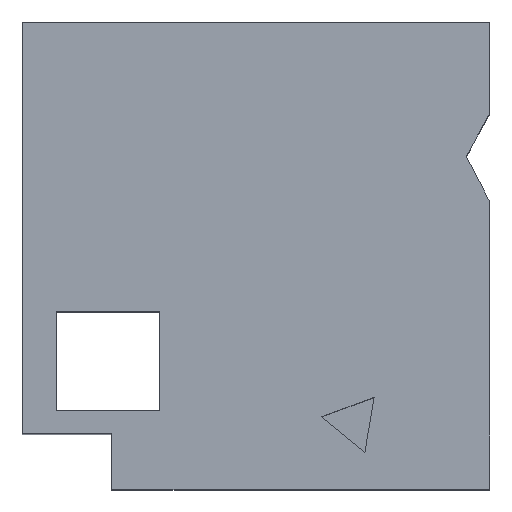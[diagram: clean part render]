
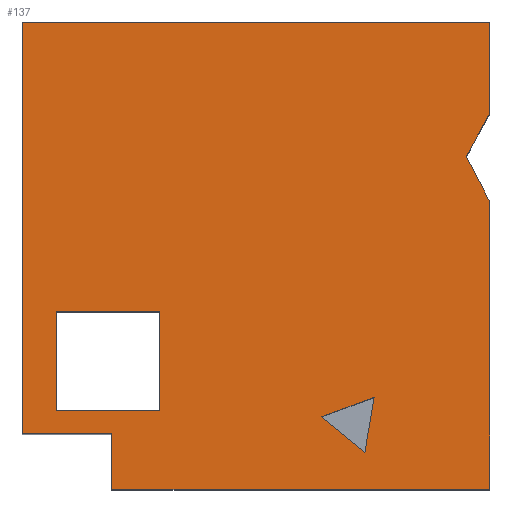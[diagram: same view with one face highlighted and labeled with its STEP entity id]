
A CAD part, top view. The second image highlights one B-rep face of the part: STEP entity #137.
In plain terms, the highlighted planar face has unit normal (0, 0, 1).
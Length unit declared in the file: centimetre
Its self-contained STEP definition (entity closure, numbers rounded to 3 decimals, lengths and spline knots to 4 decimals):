
#8 = ORIENTED_EDGE ( 'NONE', *, *, #342, .T. ) ;
#51 = VERTEX_POINT ( 'NONE', #585 ) ;
#54 = DIRECTION ( 'NONE',  ( 0., -1., 0. ) ) ;
#58 = VERTEX_POINT ( 'NONE', #244 ) ;
#74 = EDGE_LOOP ( 'NONE', ( #293, #268, #86, #396, #1429, #719, #988, #981, #1004 ) ) ;
#86 = ORIENTED_EDGE ( 'NONE', *, *, #575, .T. ) ;
#105 = CARTESIAN_POINT ( 'NONE',  ( 1000., 1000., 1000. ) ) ;
#108 = VERTEX_POINT ( 'NONE', #858 ) ;
#113 = EDGE_LOOP ( 'NONE', ( #671, #318, #610 ) ) ;
#119 = VECTOR ( 'NONE', #229, 100. ) ;
#134 = DIRECTION ( 'NONE',  ( 0., 1., 0. ) ) ;
#137 = ADVANCED_FACE ( 'NONE', ( #1286, #1391, #637 ), #549, .T. ) ;
#140 = CARTESIAN_POINT ( 'NONE',  ( 0., 1000., 1000. ) ) ;
#186 = CARTESIAN_POINT ( 'NONE',  ( 293.9067, 380.8323, 1000. ) ) ;
#207 = DIRECTION ( 'NONE',  ( 1., 0., 0. ) ) ;
#218 = EDGE_CURVE ( 'NONE', #847, #495, #597, .T. ) ;
#226 = EDGE_CURVE ( 'NONE', #399, #1090, #1226, .T. ) ;
#229 = DIRECTION ( 'NONE',  ( 0., 1., 0. ) ) ;
#233 = CARTESIAN_POINT ( 'NONE',  ( 950., 712.5295, 1000. ) ) ;
#243 = CARTESIAN_POINT ( 'NONE',  ( 1000., 0., 1000. ) ) ;
#244 = CARTESIAN_POINT ( 'NONE',  ( 1000., 1000., 1000. ) ) ;
#254 = VECTOR ( 'NONE', #886, 100. ) ;
#268 = ORIENTED_EDGE ( 'NONE', *, *, #673, .T. ) ;
#293 = ORIENTED_EDGE ( 'NONE', *, *, #934, .T. ) ;
#308 = VECTOR ( 'NONE', #1019, 100. ) ;
#318 = ORIENTED_EDGE ( 'NONE', *, *, #1223, .F. ) ;
#319 = VECTOR ( 'NONE', #1363, 100. ) ;
#321 = CARTESIAN_POINT ( 'NONE',  ( 733.2323, 79.2098, 1000. ) ) ;
#331 = LINE ( 'NONE', #105, #341 ) ;
#335 = VECTOR ( 'NONE', #1129, 100. ) ;
#341 = VECTOR ( 'NONE', #1211, 100. ) ;
#342 = EDGE_CURVE ( 'NONE', #1290, #560, #1110, .T. ) ;
#347 = EDGE_CURVE ( 'NONE', #560, #847, #614, .T. ) ;
#354 = LINE ( 'NONE', #140, #308 ) ;
#366 = CARTESIAN_POINT ( 'NONE',  ( 191.5244, 0., 1000. ) ) ;
#370 = VERTEX_POINT ( 'NONE', #1021 ) ;
#375 = CARTESIAN_POINT ( 'NONE',  ( 72.4593, 168.2633, 1000. ) ) ;
#396 = ORIENTED_EDGE ( 'NONE', *, *, #924, .T. ) ;
#399 = VERTEX_POINT ( 'NONE', #1332 ) ;
#407 = CARTESIAN_POINT ( 'NONE',  ( 0., 0., 1000. ) ) ;
#428 = VECTOR ( 'NONE', #134, 100. ) ;
#440 = CARTESIAN_POINT ( 'NONE',  ( 1000., 616.4416, 1000. ) ) ;
#452 = CARTESIAN_POINT ( 'NONE',  ( 72.4593, 168.2633, 1000. ) ) ;
#478 = EDGE_CURVE ( 'NONE', #495, #1290, #694, .T. ) ;
#495 = VERTEX_POINT ( 'NONE', #375 ) ;
#496 = LINE ( 'NONE', #626, #1126 ) ;
#549 = PLANE ( 'NONE',  #748 ) ;
#555 = ORIENTED_EDGE ( 'NONE', *, *, #478, .T. ) ;
#560 = VERTEX_POINT ( 'NONE', #186 ) ;
#570 = VERTEX_POINT ( 'NONE', #1190 ) ;
#575 = EDGE_CURVE ( 'NONE', #58, #570, #496, .T. ) ;
#585 = CARTESIAN_POINT ( 'NONE',  ( 752.7332, 196.8774, 1000. ) ) ;
#597 = LINE ( 'NONE', #452, #1147 ) ;
#598 = LINE ( 'NONE', #808, #319 ) ;
#610 = ORIENTED_EDGE ( 'NONE', *, *, #679, .F. ) ;
#614 = LINE ( 'NONE', #1054, #1322 ) ;
#626 = CARTESIAN_POINT ( 'NONE',  ( 0., 1000., 1000. ) ) ;
#637 = FACE_BOUND ( 'NONE', #1247, .T. ) ;
#671 = ORIENTED_EDGE ( 'NONE', *, *, #1119, .F. ) ;
#673 = EDGE_CURVE ( 'NONE', #1048, #58, #331, .T. ) ;
#675 = LINE ( 'NONE', #1032, #929 ) ;
#679 = EDGE_CURVE ( 'NONE', #51, #370, #1326, .T. ) ;
#685 = DIRECTION ( 'NONE',  ( 1., 0., 0. ) ) ;
#692 = LINE ( 'NONE', #233, #335 ) ;
#694 = LINE ( 'NONE', #1245, #428 ) ;
#719 = ORIENTED_EDGE ( 'NONE', *, *, #1100, .T. ) ;
#748 = AXIS2_PLACEMENT_3D ( 'NONE', #407, #1077, #207 ) ;
#808 = CARTESIAN_POINT ( 'NONE',  ( 1000., 616.4416, 1000. ) ) ;
#830 = CARTESIAN_POINT ( 'NONE',  ( 191.5244, 118.1566, 1000. ) ) ;
#841 = VECTOR ( 'NONE', #1301, 100. ) ;
#846 = EDGE_CURVE ( 'NONE', #875, #925, #675, .T. ) ;
#847 = VERTEX_POINT ( 'NONE', #1008 ) ;
#858 = CARTESIAN_POINT ( 'NONE',  ( 733.2323, 79.2098, 1000. ) ) ;
#860 = DIRECTION ( 'NONE',  ( 0.773, -0.635, 0. ) ) ;
#874 = CARTESIAN_POINT ( 'NONE',  ( 641.0796, 154.9319, 1000. ) ) ;
#875 = VERTEX_POINT ( 'NONE', #366 ) ;
#886 = DIRECTION ( 'NONE',  ( 1., 0., 0. ) ) ;
#895 = EDGE_CURVE ( 'NONE', #925, #1109, #899, .T. ) ;
#897 = DIRECTION ( 'NONE',  ( -1., 0., 0. ) ) ;
#899 = LINE ( 'NONE', #1243, #119 ) ;
#910 = VECTOR ( 'NONE', #1081, 100. ) ;
#924 = EDGE_CURVE ( 'NONE', #570, #399, #354, .T. ) ;
#925 = VERTEX_POINT ( 'NONE', #243 ) ;
#929 = VECTOR ( 'NONE', #1142, 100. ) ;
#934 = EDGE_CURVE ( 'NONE', #1256, #1048, #692, .T. ) ;
#977 = LINE ( 'NONE', #874, #1371 ) ;
#979 = CARTESIAN_POINT ( 'NONE',  ( 752.7332, 196.8774, 1000. ) ) ;
#981 = ORIENTED_EDGE ( 'NONE', *, *, #895, .T. ) ;
#986 = ORIENTED_EDGE ( 'NONE', *, *, #347, .T. ) ;
#988 = ORIENTED_EDGE ( 'NONE', *, *, #846, .T. ) ;
#990 = ORIENTED_EDGE ( 'NONE', *, *, #218, .T. ) ;
#998 = CARTESIAN_POINT ( 'NONE',  ( 72.4593, 380.8323, 1000. ) ) ;
#1004 = ORIENTED_EDGE ( 'NONE', *, *, #1396, .T. ) ;
#1008 = CARTESIAN_POINT ( 'NONE',  ( 293.9067, 168.2633, 1000. ) ) ;
#1019 = DIRECTION ( 'NONE',  ( 0., -1., 0. ) ) ;
#1021 = CARTESIAN_POINT ( 'NONE',  ( 641.0796, 154.9319, 1000. ) ) ;
#1030 = CARTESIAN_POINT ( 'NONE',  ( 950., 712.5295, 1000. ) ) ;
#1032 = CARTESIAN_POINT ( 'NONE',  ( 0., 0., 1000. ) ) ;
#1042 = DIRECTION ( 'NONE',  ( -1., 0., 0. ) ) ;
#1048 = VERTEX_POINT ( 'NONE', #1373 ) ;
#1054 = CARTESIAN_POINT ( 'NONE',  ( 293.9067, 168.2633, 1000. ) ) ;
#1077 = DIRECTION ( 'NONE',  ( 0., 0., 1. ) ) ;
#1081 = DIRECTION ( 'NONE',  ( 0.163, 0.987, 0. ) ) ;
#1089 = LINE ( 'NONE', #1426, #1249 ) ;
#1090 = VERTEX_POINT ( 'NONE', #830 ) ;
#1100 = EDGE_CURVE ( 'NONE', #1090, #875, #1089, .T. ) ;
#1109 = VERTEX_POINT ( 'NONE', #440 ) ;
#1110 = LINE ( 'NONE', #998, #254 ) ;
#1119 = EDGE_CURVE ( 'NONE', #108, #51, #1312, .T. ) ;
#1126 = VECTOR ( 'NONE', #1042, 100. ) ;
#1129 = DIRECTION ( 'NONE',  ( 0.481, 0.877, 0. ) ) ;
#1142 = DIRECTION ( 'NONE',  ( 1., 0., 0. ) ) ;
#1147 = VECTOR ( 'NONE', #897, 100. ) ;
#1190 = CARTESIAN_POINT ( 'NONE',  ( 0., 1000., 1000. ) ) ;
#1211 = DIRECTION ( 'NONE',  ( 0., 1., 0. ) ) ;
#1223 = EDGE_CURVE ( 'NONE', #370, #108, #977, .T. ) ;
#1226 = LINE ( 'NONE', #1232, #1300 ) ;
#1232 = CARTESIAN_POINT ( 'NONE',  ( 0., 118.1566, 1000. ) ) ;
#1243 = CARTESIAN_POINT ( 'NONE',  ( 1000., 1000., 1000. ) ) ;
#1245 = CARTESIAN_POINT ( 'NONE',  ( 72.4593, 168.2633, 1000. ) ) ;
#1247 = EDGE_LOOP ( 'NONE', ( #555, #8, #986, #990 ) ) ;
#1249 = VECTOR ( 'NONE', #1411, 100. ) ;
#1256 = VERTEX_POINT ( 'NONE', #1030 ) ;
#1286 = FACE_OUTER_BOUND ( 'NONE', #74, .T. ) ;
#1290 = VERTEX_POINT ( 'NONE', #1334 ) ;
#1300 = VECTOR ( 'NONE', #685, 100. ) ;
#1301 = DIRECTION ( 'NONE',  ( -0.936, -0.352, 0. ) ) ;
#1312 = LINE ( 'NONE', #321, #910 ) ;
#1322 = VECTOR ( 'NONE', #54, 100. ) ;
#1326 = LINE ( 'NONE', #979, #841 ) ;
#1332 = CARTESIAN_POINT ( 'NONE',  ( 0., 118.1566, 1000. ) ) ;
#1334 = CARTESIAN_POINT ( 'NONE',  ( 72.4593, 380.8323, 1000. ) ) ;
#1363 = DIRECTION ( 'NONE',  ( -0.462, 0.887, 0. ) ) ;
#1371 = VECTOR ( 'NONE', #860, 100. ) ;
#1373 = CARTESIAN_POINT ( 'NONE',  ( 1000., 803.782, 1000. ) ) ;
#1391 = FACE_BOUND ( 'NONE', #113, .T. ) ;
#1396 = EDGE_CURVE ( 'NONE', #1109, #1256, #598, .T. ) ;
#1411 = DIRECTION ( 'NONE',  ( 0., -1., 0. ) ) ;
#1426 = CARTESIAN_POINT ( 'NONE',  ( 191.5244, 0., 1000. ) ) ;
#1429 = ORIENTED_EDGE ( 'NONE', *, *, #226, .T. ) ;
